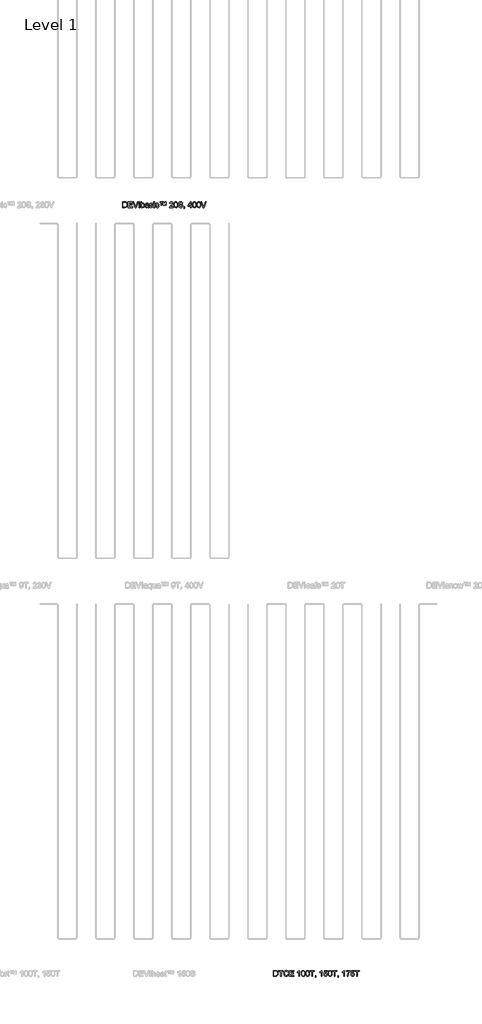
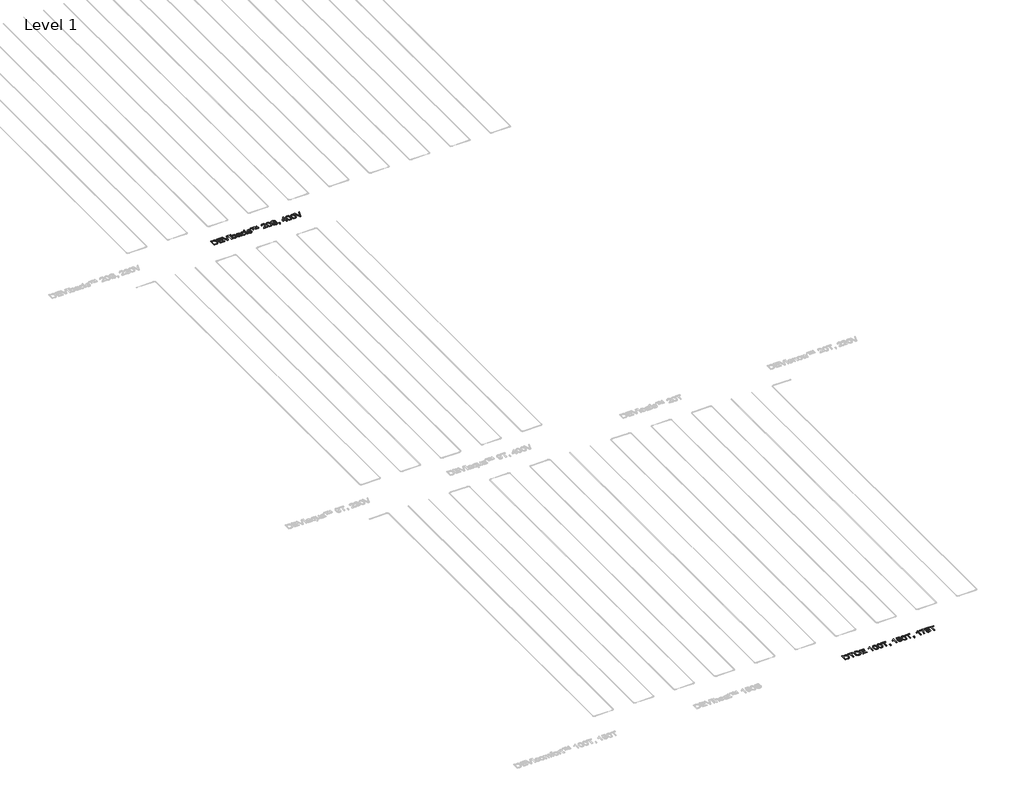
# One storey, part 13 of 26: 2 proxies.
"""IFC4 building model written with IfcOpenShell, lengths in millimetres."""

from ifc_helpers import new_model, si_unit, origin, origin_with_axes, place, context, project, spatial, polyline, outline, extrude, element, save

model = new_model("IFC4")

# Units and contexts
model_context = context("Model", 3, world=origin())
ifc_project = project(units=[si_unit("LENGTHUNIT", "METRE", prefix="MILLI")], contexts=[model_context])

# Site, building, storey
site = spatial("IfcSite", under=ifc_project)
building = spatial("IfcBuilding", under=site)
storey = spatial("IfcBuildingStorey", under=building, Name="Level 1", Elevation=0.0)

# Proxies
placement = place(None, origin())
element("IfcBuildingElementProxy", 1, Name="150mm", ObjectType="150mm", at=placement, inside=storey, context=model_context, shape_type="SweptSolid", body=[
    extrude(outline(polyline([(-2885.769813, -7520.7202), (-2885.769813, -7370.0357347), (-2833.7880871, -7370.0357347), (-2806.8959132, -7372.2062385), (-2784.7494171, -7382.985181), (-2774.3291596, -7394.4630992), (-2766.9071403, -7408.7369206), (-2762.4649652, -7425.5307337), (-2760.9842402, -7444.568627), (-2764.994154, -7474.9740739), (-2775.2948498, -7496.9182349), (-2789.0536364, -7510.585051), (-2807.0614601, -7518.145026), (-2831.2864895, -7520.7202), (-2885.769813, -7520.7202)]), holes=[polyline([(-2866.9342548, -7501.8846418), (-2833.6041461, -7501.8846418), (-2809.3607226, -7499.162315), (-2795.3812068, -7491.4735813), (-2783.9216826, -7472.7667819), (-2779.8197984, -7444.2743214), (-2781.8293538, -7423.746506), (-2787.85802, -7408.5897678), (-2796.7653628, -7398.1787074), (-2807.410948, -7391.8879252), (-2834.1191808, -7388.8712929), (-2866.9342548, -7388.8712929), (-2866.9342548, -7501.8846418)])]), origin_with_axes(), (0.0, 0.0, 1.0), 10.0),
    extrude(outline(polyline([(-2735.0853477, -7520.7202), (-2735.0853477, -7370.0357347), (-2626.7808884, -7370.0357347), (-2626.7808884, -7388.8712929), (-2716.2497896, -7388.8712929), (-2716.2497896, -7433.6057435), (-2631.4897779, -7433.6057435), (-2631.4897779, -7452.4413017), (-2716.2497896, -7452.4413017), (-2716.2497896, -7501.8846418), (-2624.4264436, -7501.8846418), (-2624.4264436, -7520.7202), (-2735.0853477, -7520.7202)])), origin_with_axes(), (0.0, 0.0, 1.0), 10.0),
    extrude(outline(polyline([(-2551.659385, -7520.7202), (-2611.6241502, -7370.0357347), (-2591.4642168, -7370.0357347), (-2551.3282912, -7478.5977115), (-2543.1980991, -7503.0618642), (-2535.1782716, -7478.5977115), (-2494.9319813, -7370.0357347), (-2474.772048, -7370.0357347), (-2532.1984274, -7520.7202), (-2551.659385, -7520.7202)])), origin_with_axes(), (0.0, 0.0, 1.0), 10.0),
    extrude(outline(polyline([(-2454.9064202, -7520.7202), (-2454.9064202, -7370.0357347), (-2436.0708621, -7370.0357347), (-2436.0708621, -7520.7202), (-2454.9064202, -7520.7202)])), origin_with_axes(), (0.0, 0.0, 1.0), 10.0),
    extrude(outline(polyline([(-2381.9186324, -7520.7202), (-2400.7541905, -7520.7202), (-2400.7541905, -7370.0357347), (-2381.9186324, -7370.0357347), (-2381.9186324, -7425.9170098), (-2368.7300629, -7412.2593907), (-2352.34092, -7407.706851), (-2333.4685736, -7411.8087353), (-2318.8268702, -7423.3418358), (-2309.8321554, -7441.2760831), (-2306.5763998, -7463.7352789), (-2309.9471185, -7488.8800133), (-2320.0592749, -7507.5868127), (-2334.8987149, -7519.2026867), (-2352.4512846, -7523.0746447), (-2369.1991124, -7518.0806466), (-2381.9186324, -7503.0986524), (-2381.9186324, -7520.7202)]), holes=[polyline([(-2381.9186324, -7464.6181957), (-2380.6310454, -7480.3267569), (-2376.7682844, -7490.9585465), (-2366.8998499, -7500.9189516), (-2354.0699653, -7504.2390866), (-2343.1990524, -7501.7926713), (-2333.910032, -7494.4534255), (-2327.5364764, -7482.2673344), (-2325.4119579, -7465.2803833), (-2327.4491045, -7448.0451118), (-2333.5605441, -7435.9969765), (-2342.5598574, -7428.906051), (-2353.260625, -7426.5424092), (-2364.1315379, -7428.9888245), (-2373.4205583, -7436.3280703), (-2379.7941139, -7448.2934322), (-2381.9186324, -7464.6181957)])]), origin_with_axes(), (0.0, 0.0, 1.0), 10.0),
    extrude(outline(polyline([(-2214.7530538, -7506.5935313), (-2233.0183948, -7519.3590366), (-2253.1967223, -7523.0746447), (-2268.9374731, -7520.8397616), (-2280.5487486, -7514.1351122), (-2287.7086519, -7503.953978), (-2290.0952864, -7491.2896403), (-2286.4900428, -7476.3904195), (-2277.0170815, -7465.5746889), (-2263.8285119, -7459.3942714), (-2247.5313395, -7456.56158), (-2214.8634184, -7450.0868569), (-2214.7530538, -7445.8930021), (-2216.0498378, -7437.4868985), (-2219.9401899, -7431.9870627), (-2228.6405991, -7427.9035726), (-2240.7623108, -7426.5424092), (-2259.8185982, -7430.1660468), (-2268.9052835, -7443.0235226), (-2287.7408416, -7440.6690778), (-2279.5922554, -7422.274978), (-2263.1847184, -7411.4960356), (-2238.3342897, -7407.706851), (-2215.5072119, -7411.0545772), (-2202.6129479, -7419.4606808), (-2196.8372006, -7432.2445801), (-2195.9174956, -7448.7256935), (-2195.9174956, -7472.1597766), (-2194.9610024, -7504.8828801), (-2191.2086061, -7520.7202), (-2210.0441642, -7520.7202), (-2214.7530538, -7506.5935313)]), holes=[polyline([(-2214.7530538, -7468.922415), (-2245.1401066, -7474.6981624), (-2261.3453085, -7477.7515829), (-2268.6845543, -7482.7179899), (-2271.2597282, -7489.9652652), (-2265.6495278, -7500.1555964), (-2249.1868085, -7504.2390866), (-2230.1305212, -7499.7325321), (-2217.8432625, -7488.824831), (-2214.8634184, -7474.256704), (-2214.7530538, -7468.922415)])]), origin_with_axes(), (0.0, 0.0, 1.0), 10.0),
    extrude(outline(polyline([(-2177.0819375, -7487.7579732), (-2158.2463793, -7485.4035284), (-2155.2757322, -7493.4601441), (-2149.527576, -7499.3830442), (-2129.5515837, -7504.2390866), (-2110.3481435, -7499.7877144), (-2104.0941496, -7489.3398658), (-2105.6668452, -7484.5390057), (-2110.3849317, -7480.8785799), (-2129.7723129, -7475.5075028), (-2158.1360147, -7466.2920588), (-2170.5152439, -7455.5315104), (-2174.7274927, -7440.337984), (-2171.3429783, -7426.3032859), (-2162.1091403, -7415.5795257), (-2150.1345813, -7410.0061135), (-2133.9293794, -7407.706851), (-2111.0103311, -7411.4040651), (-2096.4422041, -7421.4104554), (-2089.967481, -7438.314633), (-2108.8030392, -7440.6690778), (-2115.8847676, -7430.2764114), (-2132.4578514, -7426.5424092), (-2150.4840692, -7430.1108645), (-2155.8919345, -7438.4249976), (-2153.6478544, -7443.9064394), (-2146.6213083, -7448.0635059), (-2130.3977123, -7452.0734197), (-2102.7513803, -7460.9393757), (-2089.9122987, -7470.9825542), (-2085.2585915, -7487.353303), (-2090.7216391, -7505.3795208), (-2106.4853826, -7518.4577257), (-2129.8091011, -7523.0746447), (-2148.8010091, -7520.8489587), (-2162.6609633, -7514.1719004), (-2171.9131954, -7503.1170465), (-2177.0819375, -7487.7579732)])), origin_with_axes(), (0.0, 0.0, 1.0), 10.0),
    extrude(outline(polyline([(-2064.0685885, -7388.8712929), (-2064.0685885, -7370.0357347), (-2045.2330304, -7370.0357347), (-2045.2330304, -7388.8712929), (-2064.0685885, -7388.8712929)])), origin_with_axes(), (0.0, 0.0, 1.0), 10.0),
    extrude(outline(polyline([(-2064.0685885, -7520.7202), (-2064.0685885, -7410.0612958), (-2045.2330304, -7410.0612958), (-2045.2330304, -7520.7202), (-2064.0685885, -7520.7202)])), origin_with_axes(), (0.0, 0.0, 1.0), 10.0),
    extrude(outline(polyline([(-1946.3463501, -7480.6946389), (-1927.5107919, -7483.0490837), (-1932.7623074, -7499.80151), (-1942.6307419, -7512.4612492), (-1956.1871935, -7520.4212958), (-1972.5027599, -7523.0746447), (-1992.5385331, -7519.3728322), (-2008.2057076, -7508.2673944), (-2018.3178639, -7490.2457752), (-2021.6885827, -7465.7954181), (-2020.2492444, -7449.0337947), (-2015.9312295, -7434.5070544), (-2008.6655601, -7422.7762173), (-1998.3832583, -7414.4023034), (-1986.0822041, -7409.3807141), (-1972.7602773, -7407.706851), (-1956.8447825, -7410.0061135), (-1944.120664, -7416.9039009), (-1934.992592, -7428.0323313), (-1929.8652367, -7443.0235226), (-1948.7007949, -7445.3779673), (-1957.4379922, -7431.2696928), (-1972.6131245, -7426.5424092), (-1984.7854201, -7428.8692628), (-1994.446921, -7435.8498237), (-2000.7514987, -7447.8611708), (-2002.8530245, -7465.2803833), (-2000.7974839, -7482.9341205), (-1994.630862, -7494.9868544), (-1985.144105, -7501.9260285), (-1973.1281593, -7504.2390866), (-1963.3746879, -7502.7951497), (-1955.3778531, -7498.4633392), (-1949.560719, -7491.1332905), (-1946.3463501, -7480.6946389)])), origin_with_axes(), (0.0, 0.0, 1.0), 10.0),
    extrude(outline(polyline([(-1875.713007, -7454.7957464), (-1875.713007, -7384.1624033), (-1903.9663442, -7384.1624033), (-1903.9663442, -7370.0357347), (-1833.3330012, -7370.0357347), (-1833.3330012, -7384.1624033), (-1861.5863384, -7384.1624033), (-1861.5863384, -7454.7957464), (-1875.713007, -7454.7957464)])), origin_with_axes(), (0.0, 0.0, 1.0), 10.0),
    extrude(outline(polyline([(-1823.9152221, -7454.7957464), (-1823.9152221, -7370.0357347), (-1803.0195248, -7370.0357347), (-1781.4616399, -7438.0939038), (-1760.1612723, -7370.0357347), (-1739.1552104, -7370.0357347), (-1739.1552104, -7454.7957464), (-1753.281879, -7454.7957464), (-1753.281879, -7385.1924729), (-1774.4718819, -7454.7957464), (-1788.5985506, -7454.7957464), (-1809.7885535, -7384.1624033), (-1809.7885535, -7454.7957464), (-1823.9152221, -7454.7957464)])), origin_with_axes(), (0.0, 0.0, 1.0), 10.0),
    extrude(outline(polyline([(-1550.7996289, -7501.8846418), (-1550.7996289, -7520.7202), (-1649.6863092, -7520.7202), (-1647.6629582, -7507.7339655), (-1636.2218282, -7487.7395791), (-1612.6405923, -7465.9057827), (-1580.1198239, -7434.5254485), (-1574.0221798, -7423.7097178), (-1571.9896318, -7413.1882928), (-1573.9072167, -7403.7567181), (-1579.6599714, -7395.9162331), (-1588.5029349, -7390.6325279), (-1599.691146, -7388.8712929), (-1611.4403773, -7390.5911412), (-1620.5684493, -7395.7506862), (-1626.4591597, -7403.9452576), (-1628.4963063, -7414.7701853), (-1647.3318644, -7412.4157406), (-1642.7655291, -7394.1963848), (-1632.8924961, -7380.8882536), (-1618.2278001, -7372.7488644), (-1599.2864758, -7370.0357347), (-1580.2071959, -7373.0523671), (-1565.570091, -7382.1022642), (-1556.258078, -7395.6219275), (-1553.1540736, -7412.0478586), (-1556.5017998, -7429.9085294), (-1567.6302302, -7448.3762056), (-1594.6143745, -7474.1831276), (-1616.282624, -7492.3013158), (-1624.7806981, -7501.8846418), (-1550.7996289, -7501.8846418)])), origin_with_axes(), (0.0, 0.0, 1.0), 10.0),
    extrude(outline(polyline([(-1531.9640707, -7446.5919779), (-1530.5799147, -7422.4727146), (-1526.4274467, -7403.2370848), (-1519.5480534, -7388.5907829), (-1509.9831215, -7378.2395032), (-1497.6636732, -7372.0866769), (-1482.5207306, -7370.0357347), (-1460.5213873, -7374.8917771), (-1445.3278609, -7388.889687), (-1436.498693, -7411.1833359), (-1433.0773904, -7446.5919779), (-1434.4477509, -7470.5732855), (-1438.5588321, -7489.7629301), (-1445.3968387, -7504.4230276), (-1454.947975, -7514.8156939), (-1467.2950145, -7521.009907), (-1482.5207306, -7523.0746447), (-1502.0920527, -7519.4877953), (-1516.9544853, -7508.7272469), (-1528.2116744, -7483.2422217), (-1531.9640707, -7446.5919779)]), holes=[polyline([(-1513.1285126, -7446.5551897), (-1510.9212206, -7476.1834859), (-1504.2993447, -7493.3313854), (-1494.4401072, -7501.5121613), (-1482.5207306, -7504.2390866), (-1470.6013539, -7501.5029642), (-1460.7421165, -7493.2945972), (-1454.1202405, -7476.1375007), (-1451.9129486, -7446.5551897), (-1454.0466641, -7417.5936797), (-1460.4478109, -7400.3124229), (-1470.2886542, -7391.7315754), (-1482.7414598, -7388.8712929), (-1494.5320777, -7391.3912846), (-1504.0050391, -7398.9512596), (-1510.8476442, -7417.3085711), (-1513.1285126, -7446.5551897)])]), origin_with_axes(), (0.0, 0.0, 1.0), 10.0),
    extrude(outline(polyline([(-1416.596277, -7468.922415), (-1397.7607189, -7468.922415), (-1391.690666, -7487.7763673), (-1376.8650216, -7499.6957439), (-1354.2770671, -7504.2390866), (-1334.5953803, -7500.7993899), (-1321.8850574, -7491.3448226), (-1317.7095967, -7478.7080761), (-1320.8365937, -7466.9542464), (-1333.6388871, -7458.40099), (-1361.0644899, -7451.208897), (-1390.58702, -7441.9198766), (-1406.6082809, -7427.9035726), (-1411.8873875, -7409.178379), (-1410.2549111, -7398.1465177), (-1405.3574821, -7387.8596174), (-1397.323859, -7379.1408141), (-1386.2828006, -7372.8132438), (-1358.3605572, -7367.68129), (-1328.5621156, -7373.0523671), (-1317.1393796, -7379.6834401), (-1308.6964878, -7388.8345047), (-1303.3530019, -7399.9353439), (-1301.2284833, -7412.4157406), (-1320.0640415, -7412.4157406), (-1323.5221323, -7401.1769456), (-1330.7326194, -7393.0651476), (-1341.9990055, -7388.153923), (-1357.6247932, -7386.5168481), (-1373.6184629, -7388.1355289), (-1384.5905435, -7392.9915712), (-1390.9365079, -7400.137679), (-1393.0518293, -7408.626556), (-1391.5527102, -7415.8646343), (-1387.0553528, -7421.6863669), (-1356.300418, -7432.2077919), (-1322.9703093, -7441.6623592), (-1312.2327535, -7448.4957673), (-1304.7417564, -7456.929462), (-1300.340968, -7466.8714729), (-1298.8740386, -7478.2298295), (-1300.5616972, -7489.841105), (-1305.6246732, -7500.7626017), (-1313.8560328, -7510.1619867), (-1325.0488425, -7517.2069269), (-1338.508725, -7521.6077153), (-1353.5413031, -7523.0746447), (-1371.9951836, -7521.4927521), (-1387.1841115, -7516.7470744), (-1399.2828306, -7508.8192174), (-1408.4660849, -7497.6907871), (-1414.3613939, -7484.1343355), (-1416.596277, -7468.922415)])), origin_with_axes(), (0.0, 0.0, 1.0), 10.0),
    extrude(outline(polyline([(-1268.2662566, -7520.7202), (-1268.2662566, -7501.8846418), (-1249.4306984, -7501.8846418), (-1249.4306984, -7520.7202), (-1252.8152128, -7539.9788224), (-1263.557367, -7551.327982), (-1268.2662566, -7544.2646476), (-1261.3500751, -7536.1344556), (-1258.8852657, -7520.7202), (-1268.2662566, -7520.7202)])), origin_with_axes(), (0.0, 0.0, 1.0), 10.0),
    extrude(outline(polyline([(-1098.7462332, -7520.7202), (-1098.7462332, -7485.4035284), (-1167.0251315, -7485.4035284), (-1167.0251315, -7466.5679703), (-1094.0373437, -7372.3901795), (-1079.910675, -7372.3901795), (-1079.910675, -7466.5679703), (-1061.0751169, -7466.5679703), (-1061.0751169, -7485.4035284), (-1079.910675, -7485.4035284), (-1079.910675, -7520.7202), (-1098.7462332, -7520.7202)]), holes=[polyline([(-1098.7462332, -7466.5679703), (-1098.7462332, -7408.3690386), (-1143.8485658, -7466.5679703), (-1098.7462332, -7466.5679703)])]), origin_with_axes(), (0.0, 0.0, 1.0), 10.0),
    extrude(outline(polyline([(-1044.5940035, -7446.5919779), (-1043.2098475, -7422.4727146), (-1039.0573795, -7403.2370848), (-1032.1779862, -7388.5907829), (-1022.6130543, -7378.2395032), (-1010.293606, -7372.0866769), (-995.1506634, -7370.0357347), (-973.15132, -7374.8917771), (-957.9577936, -7388.889687), (-949.1286258, -7411.1833359), (-945.7073232, -7446.5919779), (-947.0776836, -7470.5732855), (-951.1887649, -7489.7629301), (-958.0267715, -7504.4230276), (-967.5779078, -7514.8156939), (-979.9249473, -7521.009907), (-995.1506634, -7523.0746447), (-1014.7219855, -7519.4877953), (-1029.5844181, -7508.7272469), (-1040.8416072, -7483.2422217), (-1044.5940035, -7446.5919779)]), holes=[polyline([(-1025.7584454, -7446.5551897), (-1023.5511534, -7476.1834859), (-1016.9292775, -7493.3313854), (-1007.07004, -7501.5121613), (-995.1506634, -7504.2390866), (-983.2312867, -7501.5029642), (-973.3720492, -7493.2945972), (-966.7501733, -7476.1375007), (-964.5428814, -7446.5551897), (-966.6765969, -7417.5936797), (-973.0777436, -7400.3124229), (-982.918587, -7391.7315754), (-995.3713926, -7388.8712929), (-1007.1620105, -7391.3912846), (-1016.6349719, -7398.9512596), (-1023.477577, -7417.3085711), (-1025.7584454, -7446.5551897)])]), origin_with_axes(), (0.0, 0.0, 1.0), 10.0),
    extrude(outline(polyline([(-929.2262098, -7446.5919779), (-927.8420538, -7422.4727146), (-923.6895858, -7403.2370848), (-916.8101925, -7388.5907829), (-907.2452606, -7378.2395032), (-894.9258123, -7372.0866769), (-879.7828697, -7370.0357347), (-857.7835264, -7374.8917771), (-842.59, -7388.889687), (-833.7608321, -7411.1833359), (-830.3395295, -7446.5919779), (-831.70989, -7470.5732855), (-835.8209712, -7489.7629301), (-842.6589778, -7504.4230276), (-852.2101141, -7514.8156939), (-864.5571536, -7521.009907), (-879.7828697, -7523.0746447), (-899.3541918, -7519.4877953), (-914.2166244, -7508.7272469), (-925.4738135, -7483.2422217), (-929.2262098, -7446.5919779)]), holes=[polyline([(-910.3906517, -7446.5551897), (-908.1833597, -7476.1834859), (-901.5614838, -7493.3313854), (-891.7022463, -7501.5121613), (-879.7828697, -7504.2390866), (-867.863493, -7501.5029642), (-858.0042556, -7493.2945972), (-851.3823796, -7476.1375007), (-849.1750877, -7446.5551897), (-851.3088032, -7417.5936797), (-857.70995, -7400.3124229), (-867.5507933, -7391.7315754), (-880.0035989, -7388.8712929), (-891.7942168, -7391.3912846), (-901.2671782, -7398.9512596), (-908.1097833, -7417.3085711), (-910.3906517, -7446.5551897)])]), origin_with_axes(), (0.0, 0.0, 1.0), 10.0),
    extrude(outline(polyline([(-762.2813604, -7520.7202), (-822.2461256, -7370.0357347), (-802.0861923, -7370.0357347), (-761.9502666, -7478.5977115), (-753.8200745, -7503.0618642), (-745.800247, -7478.5977115), (-705.5539568, -7370.0357347), (-685.3940234, -7370.0357347), (-742.8204029, -7520.7202), (-762.2813604, -7520.7202)])), origin_with_axes(), (0.0, 0.0, 1.0), 10.0),
])
element("IfcBuildingElementProxy", 2, Name="150mm", ObjectType="150mm", at=placement, inside=storey, context=model_context, shape_type="SweptSolid", body=[
    extrude(outline(polyline([(1082.4451826, -27720.7202), (1082.4451826, -27570.0357347), (1134.4269086, -27570.0357347), (1161.3190824, -27572.2062385), (1183.4655785, -27582.985181), (1193.885836, -27594.4630992), (1201.3078553, -27608.7369206), (1205.7500304, -27625.5307337), (1207.2307554, -27644.568627), (1203.2208417, -27674.9740739), (1192.9201458, -27696.9182349), (1179.1613592, -27710.585051), (1161.1535355, -27718.145026), (1136.9285061, -27720.7202), (1082.4451826, -27720.7202)]), holes=[polyline([(1101.2807408, -27701.8846418), (1134.6108496, -27701.8846418), (1158.854273, -27699.162315), (1172.8337889, -27691.4735813), (1184.293313, -27672.7667819), (1188.3951973, -27644.2743214), (1186.3856419, -27623.746506), (1180.3569757, -27608.5897678), (1171.4496329, -27598.1787074), (1160.8040476, -27591.8879252), (1134.0958148, -27588.8712929), (1101.2807408, -27588.8712929), (1101.2807408, -27701.8846418)])]), origin_with_axes(), (0.0, 0.0, 1.0), 10.0),
    extrude(outline(polyline([(1270.8007642, -27720.7202), (1270.8007642, -27588.8712929), (1221.357424, -27588.8712929), (1221.357424, -27570.0357347), (1339.0796625, -27570.0357347), (1339.0796625, -27588.8712929), (1289.6363223, -27588.8712929), (1289.6363223, -27720.7202), (1270.8007642, -27720.7202)])), origin_with_axes(), (0.0, 0.0, 1.0), 10.0),
    extrude(outline(polyline([(1466.21968, -27667.1565815), (1485.0552382, -27672.0126238), (1476.364026, -27693.9613833), (1462.7248011, -27709.9964398), (1444.8089479, -27719.8050935), (1423.2878512, -27723.0746447), (1401.4402592, -27720.6006383), (1384.0900246, -27713.1786191), (1370.7910905, -27701.0661044), (1361.0973999, -27684.5206116), (1355.1790983, -27665.0688511), (1353.2063311, -27644.2375332), (1355.4366157, -27622.265781), (1362.1274695, -27603.2922671), (1372.9294046, -27587.9193982), (1387.492933, -27576.7495811), (1404.7649927, -27569.9483628), (1423.6925214, -27567.68129), (1444.3444969, -27570.6151489), (1461.41882, -27579.4167256), (1474.3820618, -27593.5433942), (1482.7007934, -27612.4525288), (1463.8652352, -27616.9406891), (1457.3353298, -27603.2048951), (1448.4141914, -27593.7825175), (1436.9914555, -27588.3332655), (1422.9567574, -27586.5168481), (1406.7791466, -27588.531002), (1393.4894096, -27594.5734638), (1383.4048444, -27604.009637), (1376.8427493, -27616.2049251), (1372.0418892, -27644.200745), (1373.4628335, -27661.6015633), (1377.7256661, -27676.6479369), (1384.9913355, -27688.7650502), (1395.42079, -27697.3780874), (1407.9241794, -27702.5238368), (1421.411653, -27704.2390866), (1437.1340098, -27701.9030359), (1450.2352073, -27694.8948839), (1460.1266345, -27683.2882069), (1466.21968, -27667.1565815)])), origin_with_axes(), (0.0, 0.0, 1.0), 10.0),
    extrude(outline(polyline([(1510.9541306, -27720.7202), (1510.9541306, -27570.0357347), (1619.25859, -27570.0357347), (1619.25859, -27588.8712929), (1529.7896888, -27588.8712929), (1529.7896888, -27633.6057435), (1614.5497005, -27633.6057435), (1614.5497005, -27652.4413017), (1529.7896888, -27652.4413017), (1529.7896888, -27701.8846418), (1621.6130348, -27701.8846418), (1621.6130348, -27720.7202), (1510.9541306, -27720.7202)])), origin_with_axes(), (0.0, 0.0, 1.0), 10.0),
    extrude(outline(polyline([(1772.2975, -27720.7202), (1753.4619418, -27720.7202), (1753.4619418, -27603.2922671), (1735.6196651, -27616.00259), (1715.7908255, -27625.5123396), (1715.7908255, -27607.706851), (1743.4003693, -27590.0853035), (1760.1573942, -27570.0357347), (1772.2975, -27570.0357347), (1772.2975, -27720.7202)])), origin_with_axes(), (0.0, 0.0, 1.0), 10.0),
    extrude(outline(polyline([(1817.0319506, -27646.5919779), (1818.4161066, -27622.4727146), (1822.5685746, -27603.2370848), (1829.447968, -27588.5907829), (1839.0128998, -27578.2395032), (1851.3323481, -27572.0866769), (1866.4752908, -27570.0357347), (1888.4746341, -27574.8917771), (1903.6681605, -27588.889687), (1912.4973284, -27611.1833359), (1915.9186309, -27646.5919779), (1914.5482705, -27670.5732855), (1910.4371892, -27689.7629301), (1903.5991826, -27704.4230276), (1894.0480463, -27714.8156939), (1881.7010068, -27721.009907), (1866.4752908, -27723.0746447), (1846.9039686, -27719.4877953), (1832.041536, -27708.7272469), (1820.784347, -27683.2422217), (1817.0319506, -27646.5919779)]), holes=[polyline([(1835.8675088, -27646.5551897), (1838.0748007, -27676.1834859), (1844.6966767, -27693.3313854), (1854.5559141, -27701.5121613), (1866.4752908, -27704.2390866), (1878.3946674, -27701.5029642), (1888.2539049, -27693.2945972), (1894.8757808, -27676.1375007), (1897.0830728, -27646.5551897), (1894.9493572, -27617.5936797), (1888.5482105, -27600.3124229), (1878.7073671, -27591.7315754), (1866.2545616, -27588.8712929), (1854.4639436, -27591.3912846), (1844.9909822, -27598.9512596), (1838.1483771, -27617.3085711), (1835.8675088, -27646.5551897)])]), origin_with_axes(), (0.0, 0.0, 1.0), 10.0),
    extrude(outline(polyline([(1932.3997443, -27646.5919779), (1933.7839003, -27622.4727146), (1937.9363683, -27603.2370848), (1944.8157616, -27588.5907829), (1954.3806935, -27578.2395032), (1966.7001418, -27572.0866769), (1981.8430845, -27570.0357347), (2003.8424278, -27574.8917771), (2019.0359542, -27588.889687), (2027.865122, -27611.1833359), (2031.2864246, -27646.5919779), (2029.9160642, -27670.5732855), (2025.8049829, -27689.7629301), (2018.9669763, -27704.4230276), (2009.41584, -27714.8156939), (1997.0688005, -27721.009907), (1981.8430845, -27723.0746447), (1962.2717623, -27719.4877953), (1947.4093297, -27708.7272469), (1936.1521407, -27683.2422217), (1932.3997443, -27646.5919779)]), holes=[polyline([(1951.2353025, -27646.5551897), (1953.4425944, -27676.1834859), (1960.0644703, -27693.3313854), (1969.9237078, -27701.5121613), (1981.8430845, -27704.2390866), (1993.7624611, -27701.5029642), (2003.6216986, -27693.2945972), (2010.2435745, -27676.1375007), (2012.4508665, -27646.5551897), (2010.3171509, -27617.5936797), (2003.9160042, -27600.3124229), (1994.0751608, -27591.7315754), (1981.6223553, -27588.8712929), (1969.8317373, -27591.3912846), (1960.3587759, -27598.9512596), (1953.5161708, -27617.3085711), (1951.2353025, -27646.5551897)])]), origin_with_axes(), (0.0, 0.0, 1.0), 10.0),
    extrude(outline(polyline([(2092.5019886, -27720.7202), (2092.5019886, -27588.8712929), (2043.0586484, -27588.8712929), (2043.0586484, -27570.0357347), (2160.7808869, -27570.0357347), (2160.7808869, -27588.8712929), (2111.3375468, -27588.8712929), (2111.3375468, -27720.7202), (2092.5019886, -27720.7202)])), origin_with_axes(), (0.0, 0.0, 1.0), 10.0),
    extrude(outline(polyline([(2184.3253346, -27720.7202), (2184.3253346, -27701.8846418), (2203.1608928, -27701.8846418), (2203.1608928, -27720.7202), (2199.7763784, -27739.9788224), (2189.0342241, -27751.327982), (2184.3253346, -27744.2646476), (2191.2415161, -27736.1344556), (2193.7063255, -27720.7202), (2184.3253346, -27720.7202)])), origin_with_axes(), (0.0, 0.0, 1.0), 10.0),
    extrude(outline(polyline([(2363.2631371, -27720.7202), (2344.4275789, -27720.7202), (2344.4275789, -27603.2922671), (2326.5853021, -27616.00259), (2306.7564626, -27625.5123396), (2306.7564626, -27607.706851), (2334.3660063, -27590.0853035), (2351.1230312, -27570.0357347), (2363.2631371, -27570.0357347), (2363.2631371, -27720.7202)])), origin_with_axes(), (0.0, 0.0, 1.0), 10.0),
    extrude(outline(polyline([(2407.9975877, -27680.6946389), (2426.8331458, -27678.3401941), (2430.2912366, -27689.6479669), (2436.3245013, -27697.7459694), (2444.9053488, -27702.6158073), (2456.006188, -27704.2390866), (2469.5074573, -27701.9812108), (2479.6242121, -27695.2075836), (2485.9425854, -27684.6999541), (2488.0487098, -27671.2400716), (2486.0759426, -27658.5665369), (2480.157641, -27648.8728463), (2470.2478198, -27642.7200199), (2456.3004936, -27640.6690778), (2439.7641979, -27643.9432276), (2429.1875906, -27652.4413017), (2410.3520324, -27650.0868569), (2426.8331458, -27572.3901795), (2499.8209337, -27572.3901795), (2499.8209337, -27591.2257377), (2442.0634604, -27591.2257377), (2434.0068447, -27632.7228267), (2447.4621287, -27624.5558464), (2461.5612062, -27621.8335197), (2479.1597611, -27625.208837), (2493.7692748, -27635.3347889), (2503.6055197, -27650.7674386), (2506.884268, -27670.0628492), (2503.932015, -27688.8984074), (2495.0752559, -27705.0116388), (2478.1158959, -27718.5588932), (2455.9326116, -27723.0746447), (2437.4327458, -27720.1729755), (2422.6944734, -27711.4679678), (2412.5915141, -27697.9712971), (2407.9975877, -27680.6946389)])), origin_with_axes(), (0.0, 0.0, 1.0), 10.0),
    extrude(outline(polyline([(2523.3653814, -27646.5919779), (2524.7495374, -27622.4727146), (2528.9020054, -27603.2370848), (2535.7813987, -27588.5907829), (2545.3463306, -27578.2395032), (2557.6657789, -27572.0866769), (2572.8087215, -27570.0357347), (2594.8080648, -27574.8917771), (2610.0015912, -27588.889687), (2618.8307591, -27611.1833359), (2622.2520617, -27646.5919779), (2620.8817012, -27670.5732855), (2616.7706199, -27689.7629301), (2609.9326133, -27704.4230276), (2600.381477, -27714.8156939), (2588.0344376, -27721.009907), (2572.8087215, -27723.0746447), (2553.2373994, -27719.4877953), (2538.3749668, -27708.7272469), (2527.1177777, -27683.2422217), (2523.3653814, -27646.5919779)]), holes=[polyline([(2542.2009395, -27646.5551897), (2544.4082315, -27676.1834859), (2551.0301074, -27693.3313854), (2560.8893449, -27701.5121613), (2572.8087215, -27704.2390866), (2584.7280981, -27701.5029642), (2594.5873356, -27693.2945972), (2601.2092115, -27676.1375007), (2603.4165035, -27646.5551897), (2601.2827879, -27617.5936797), (2594.8816412, -27600.3124229), (2585.0407978, -27591.7315754), (2572.5879923, -27588.8712929), (2560.7973744, -27591.3912846), (2551.324413, -27598.9512596), (2544.4818079, -27617.3085711), (2542.2009395, -27646.5551897)])]), origin_with_axes(), (0.0, 0.0, 1.0), 10.0),
    extrude(outline(polyline([(2683.4676257, -27720.7202), (2683.4676257, -27588.8712929), (2634.0242855, -27588.8712929), (2634.0242855, -27570.0357347), (2751.746524, -27570.0357347), (2751.746524, -27588.8712929), (2702.3031838, -27588.8712929), (2702.3031838, -27720.7202), (2683.4676257, -27720.7202)])), origin_with_axes(), (0.0, 0.0, 1.0), 10.0),
    extrude(outline(polyline([(2775.2909716, -27720.7202), (2775.2909716, -27701.8846418), (2794.1265298, -27701.8846418), (2794.1265298, -27720.7202), (2790.7420154, -27739.9788224), (2779.9998612, -27751.327982), (2775.2909716, -27744.2646476), (2782.2071532, -27736.1344556), (2784.6719625, -27720.7202), (2775.2909716, -27720.7202)])), origin_with_axes(), (0.0, 0.0, 1.0), 10.0),
    extrude(outline(polyline([(2954.2287741, -27720.7202), (2935.393216, -27720.7202), (2935.393216, -27603.2922671), (2917.5509392, -27616.00259), (2897.7220996, -27625.5123396), (2897.7220996, -27607.706851), (2925.3316434, -27590.0853035), (2942.0886683, -27570.0357347), (2954.2287741, -27570.0357347), (2954.2287741, -27720.7202)])), origin_with_axes(), (0.0, 0.0, 1.0), 10.0),
    extrude(outline(polyline([(2998.9632247, -27591.2257377), (2998.9632247, -27572.3901795), (3097.849905, -27572.3901795), (3097.849905, -27587.6204941), (3069.7989029, -27628.1426959), (3057.4886516, -27653.6047285), (3048.3329885, -27679.7749339), (3041.3432306, -27720.7202), (3022.5076724, -27720.7202), (3029.994071, -27678.2298295), (3038.7082758, -27653.7702754), (3050.5402804, -27630.202835), (3079.0143469, -27591.2257377), (2998.9632247, -27591.2257377)])), origin_with_axes(), (0.0, 0.0, 1.0), 10.0),
    extrude(outline(polyline([(3114.3310184, -27680.6946389), (3133.1665766, -27678.3401941), (3136.6246673, -27689.6479669), (3142.657932, -27697.7459694), (3151.2387796, -27702.6158073), (3162.3396188, -27704.2390866), (3175.840888, -27701.9812108), (3185.9576429, -27695.2075836), (3192.2760161, -27684.6999541), (3194.3821406, -27671.2400716), (3192.4093734, -27658.5665369), (3186.4910718, -27648.8728463), (3176.5812505, -27642.7200199), (3162.6339244, -27640.6690778), (3146.0976287, -27643.9432276), (3135.5210213, -27652.4413017), (3116.6854632, -27650.0868569), (3133.1665766, -27572.3901795), (3206.1543644, -27572.3901795), (3206.1543644, -27591.2257377), (3148.3968912, -27591.2257377), (3140.3402755, -27632.7228267), (3153.7955594, -27624.5558464), (3167.8946369, -27621.8335197), (3185.4931918, -27625.208837), (3200.1027056, -27635.3347889), (3209.9389504, -27650.7674386), (3213.2176987, -27670.0628492), (3210.2654457, -27688.8984074), (3201.4086867, -27705.0116388), (3184.4493267, -27718.5588932), (3162.2660424, -27723.0746447), (3143.7661765, -27720.1729755), (3129.0279041, -27711.4679678), (3118.9249448, -27697.9712971), (3114.3310184, -27680.6946389)])), origin_with_axes(), (0.0, 0.0, 1.0), 10.0),
    extrude(outline(polyline([(3274.4332627, -27720.7202), (3274.4332627, -27588.8712929), (3224.9899226, -27588.8712929), (3224.9899226, -27570.0357347), (3342.712161, -27570.0357347), (3342.712161, -27588.8712929), (3293.2688209, -27588.8712929), (3293.2688209, -27720.7202), (3274.4332627, -27720.7202)])), origin_with_axes(), (0.0, 0.0, 1.0), 10.0),
])

save(model, "model.ifc")
